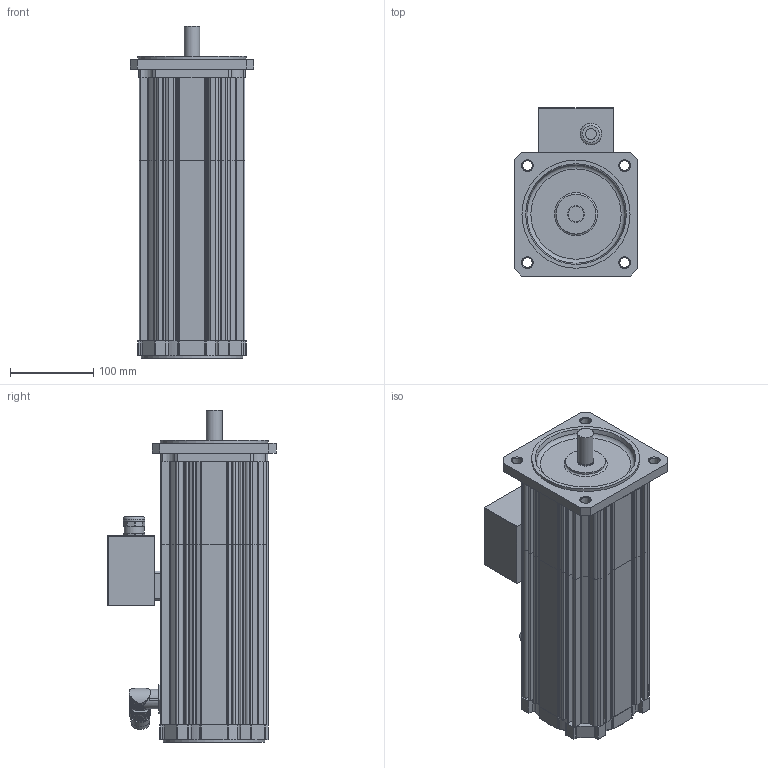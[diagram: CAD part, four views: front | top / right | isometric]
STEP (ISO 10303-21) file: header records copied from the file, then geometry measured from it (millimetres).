
FILE_DESCRIPTION(/* description */ (''),/* implementation_level */ '2;1');
FILE_NAME(/* name */ 'KSA648_MC_Ix',/* time_stamp */ '2009-02-26T15:34:39+01:00',/* author */ (''),/* organization */ (''),/* preprocessor_version */ 'ST-DEVELOPER v8',/* originating_system */ 'UNIGRAPHICS SOLUTIONS - UNIGRAPHICS 18.0',/* authorisation */ '');
FILE_SCHEMA (('AUTOMOTIVE_DESIGN { 1 2 10303 214 0 1 1 1 }'));
Length unit declared in the file: millimetre
Products named in the file (7): 0280391350_0; Winkelflanschdose_0; 089106X_0; LagerschBS_0; LagerschAS_0; Klemmenkasten_0; KSA648_MC_Ix_0
Assembly tree (6 placements, depth 3):
  KSA648_MC_Ix_0
    LagerschAS_0
    Klemmenkasten_0
      0280391350_0
    LagerschBS_0
    089106X_0
    Winkelflanschdose_0
Bounding box: 149 x 202.35 x 399 mm (x, y, z)
Volume: 2432234.9 mm3; surface area: 633674 mm2
Topology: 7 solids, 7 shells, 781 faces, 2209 edges, 1459 vertices
Faces by surface type: cylinder 476, plane 287, cone 10, torus 4, sphere 4
Full cylindrical faces by diameter (mm): 13 x1, 16 x1, 18 x1, 19 x1, 20 x3, 21 x1, 21.5 x1, 23 x2, 24 x1, 26 x1, 48 x1, 114 x1, 119.7 x2, 121 x1, 122 x2, 130 x1
Entity records: 25889 total; most frequent: CARTESIAN_POINT 5021, DIRECTION 4458, ORIENTED_EDGE 4326, EDGE_CURVE 2163, AXIS2_PLACEMENT_3D 1647, VERTEX_POINT 1452, LINE 1164, VECTOR 1164
